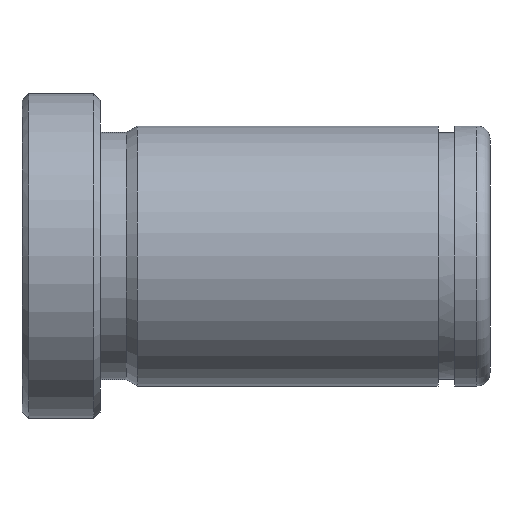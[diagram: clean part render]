
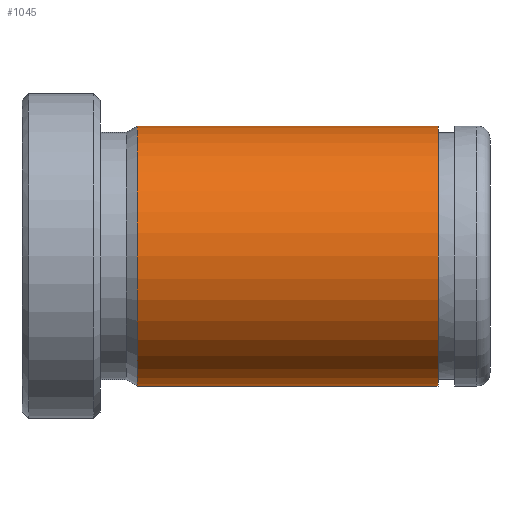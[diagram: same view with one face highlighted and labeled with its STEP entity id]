
A CAD part, front view. The second image highlights one B-rep face of the part: STEP entity #1045.
In plain terms, the highlighted cylindrical face has radius 10 mm (diameter 20 mm), a partial arc.
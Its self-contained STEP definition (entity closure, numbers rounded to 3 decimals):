
#851=CARTESIAN_POINT('Vertex',(8.866,0.,-10.)) ;
#858=CARTESIAN_POINT('Vertex',(8.866,0.,10.)) ;
#887=CARTESIAN_POINT('Axis2P3D Location',(8.866,0.,0.)) ;
#891=CARTESIAN_POINT('Vertex',(8.866,-10.,0.)) ;
#894=CARTESIAN_POINT('Axis2P3D Location',(8.866,0.,0.)) ;
#985=CARTESIAN_POINT('Line Origine',(72.,0.,10.)) ;
#989=CARTESIAN_POINT('Vertex',(32.,0.,10.)) ;
#1003=CARTESIAN_POINT('Vertex',(32.,0.,-10.)) ;
#1006=CARTESIAN_POINT('Line Origine',(72.,0.,-10.)) ;
#1020=CARTESIAN_POINT('Axis2P3D Location',(72.,0.,0.)) ;
#1025=CARTESIAN_POINT('Axis2P3D Location',(32.,0.,0.)) ;
#1029=CARTESIAN_POINT('Vertex',(32.,-10.,0.)) ;
#1032=CARTESIAN_POINT('Axis2P3D Location',(32.,0.,0.)) ;
#888=DIRECTION('Axis2P3D Direction',(1.,0.,-0.)) ;
#895=DIRECTION('Axis2P3D Direction',(1.,0.,-0.)) ;
#986=DIRECTION('Vector Direction',(-1.,0.,0.)) ;
#1007=DIRECTION('Vector Direction',(-1.,0.,0.)) ;
#1021=DIRECTION('Axis2P3D Direction',(-1.,-0.,-0.)) ;
#1022=DIRECTION('Axis2P3D XDirection',(0.,0.,-1.)) ;
#1026=DIRECTION('Axis2P3D Direction',(-1.,-0.,-0.)) ;
#1033=DIRECTION('Axis2P3D Direction',(-1.,-0.,-0.)) ;
#889=AXIS2_PLACEMENT_3D('Circle Axis2P3D',#887,#888,$) ;
#896=AXIS2_PLACEMENT_3D('Circle Axis2P3D',#894,#895,$) ;
#1023=AXIS2_PLACEMENT_3D('Cylinder Axis2P3D',#1020,#1021,#1022) ;
#1027=AXIS2_PLACEMENT_3D('Circle Axis2P3D',#1025,#1026,$) ;
#1034=AXIS2_PLACEMENT_3D('Circle Axis2P3D',#1032,#1033,$) ;
#1038=ORIENTED_EDGE('',*,*,#1010,.T.) ;
#1039=ORIENTED_EDGE('',*,*,#1031,.F.) ;
#1040=ORIENTED_EDGE('',*,*,#1036,.F.) ;
#1041=ORIENTED_EDGE('',*,*,#991,.T.) ;
#1042=ORIENTED_EDGE('',*,*,#898,.T.) ;
#1043=ORIENTED_EDGE('',*,*,#893,.T.) ;
#987=VECTOR('Line Direction',#986,1.) ;
#1008=VECTOR('Line Direction',#1007,1.) ;
#1045=ADVANCED_FACE('553-14x36',(#1044),#1024,.T.) ;
#890=CIRCLE('generated circle',#889,10.) ;
#897=CIRCLE('generated circle',#896,10.) ;
#1028=CIRCLE('generated circle',#1027,10.) ;
#1035=CIRCLE('generated circle',#1034,10.) ;
#1024=CYLINDRICAL_SURFACE('generated cylinder',#1023,10.) ;
#893=EDGE_CURVE('',#892,#852,#890,.T.) ;
#898=EDGE_CURVE('',#859,#892,#897,.T.) ;
#991=EDGE_CURVE('',#990,#859,#988,.T.) ;
#1010=EDGE_CURVE('',#852,#1004,#1009,.F.) ;
#1031=EDGE_CURVE('',#1030,#1004,#1028,.F.) ;
#1036=EDGE_CURVE('',#990,#1030,#1035,.F.) ;
#1037=EDGE_LOOP('',(#1038,#1039,#1040,#1041,#1042,#1043)) ;
#1044=FACE_OUTER_BOUND('',#1037,.T.) ;
#988=LINE('Line',#985,#987) ;
#1009=LINE('Line',#1006,#1008) ;
#852=VERTEX_POINT('',#851) ;
#859=VERTEX_POINT('',#858) ;
#892=VERTEX_POINT('',#891) ;
#990=VERTEX_POINT('',#989) ;
#1004=VERTEX_POINT('',#1003) ;
#1030=VERTEX_POINT('',#1029) ;
